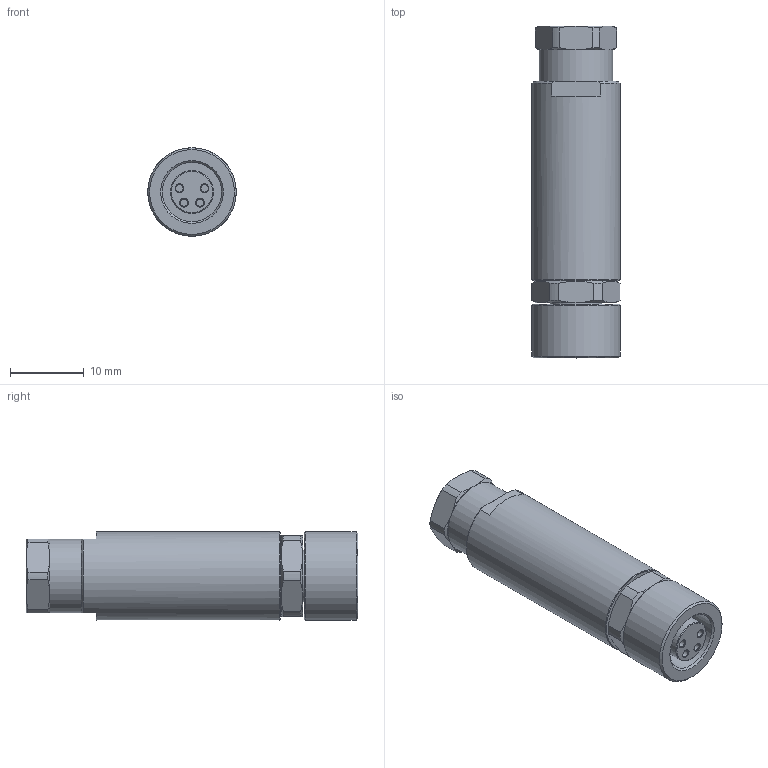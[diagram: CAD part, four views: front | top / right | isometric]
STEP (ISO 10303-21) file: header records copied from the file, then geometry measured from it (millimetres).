
FILE_DESCRIPTION( ( 'Unknown' ), '1' );
FILE_NAME( 'C:/Users/txr10011/Documents/1_in Bearbeitung/161123/ralle/RKMCK 4.stp', 'Unknown', ( 'Unknown' ), ( 'Unknown' ), 'PSStep 17.0.49', 'Unknown', ' ' );
FILE_SCHEMA( ( 'AUTOMOTIVE_DESIGN { 1 0 10303 214 1 1 1 1 }' ) );
Length unit declared in the file: millimetre
Products named in the file (1): RKMCK
Bounding box: 12 x 45 x 12 mm (x, y, z)
Volume: 4239 mm3; surface area: 2668.9 mm2
Topology: 1 solids, 1 shells, 97 faces, 220 edges, 136 vertices
Faces by surface type: plane 37, cone 36, cylinder 24
Full cylindrical faces by diameter (mm): 1 x4, 5 x1, 5.8 x1, 7 x1, 8 x1, 10 x2, 12 x2
Entity records: 3332 total; most frequent: CARTESIAN_POINT 534, DIRECTION 434, ORIENTED_EDGE 394, EDGE_CURVE 197, AXIS2_PLACEMENT_3D 191, VERTEX_POINT 135, EDGE_LOOP 130, FACE_OUTER_BOUND 109
